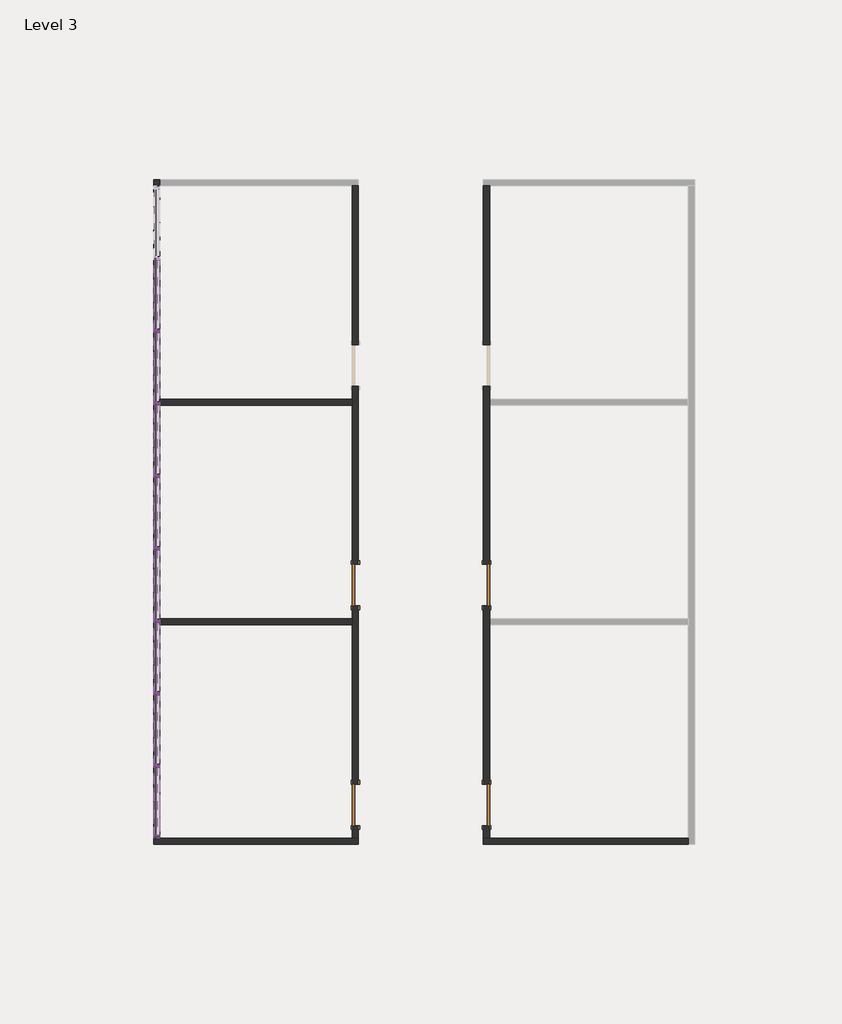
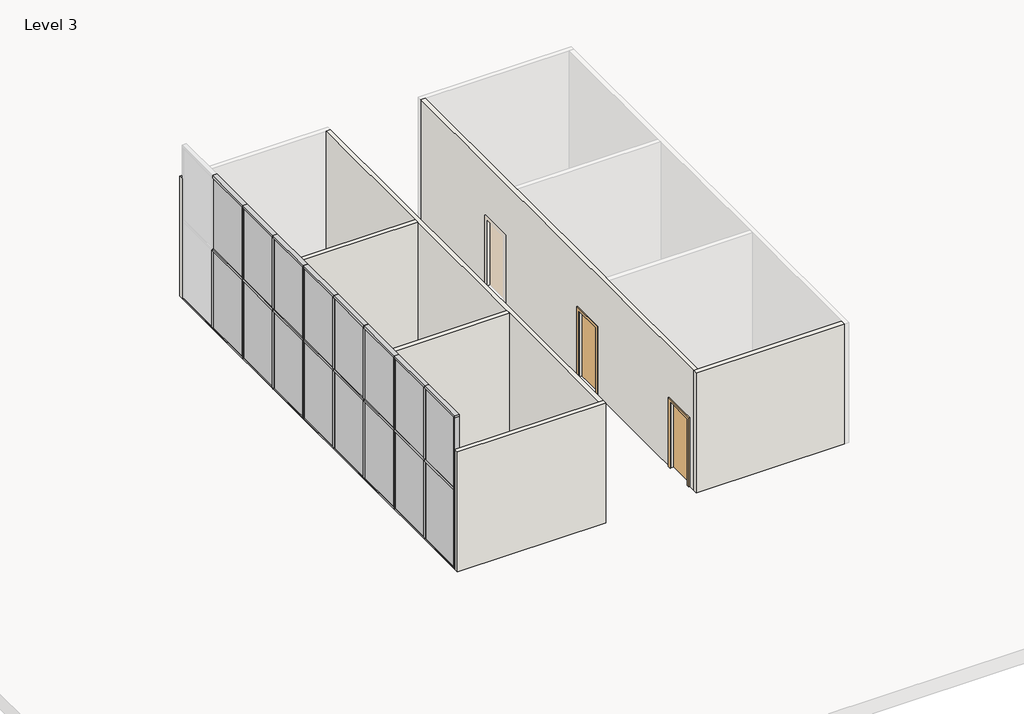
# One storey, part 1 of 2: 42 members, 16 plates, 7 walls, 4 doors.
"""IFC4 building model written with IfcOpenShell, lengths in millimetres."""

from ifc_helpers import new_model, si_unit, frame, origin, place, context, project, spatial, polyline, outline, extrude, faceted_brep, transform, mapped, element, save
from components import door_82111de5, door_92889684, member_fc09b6aa, member_9597caa3, member_b2bde9e6, member_131a91bd, member_8e4b14e5, member_6186cc23, member_73a57e35, system_panel_glazed_f771dc8d, system_panel_glazed_f1d9fa5b, system_panel_solid_9531ad7b, system_panel_solid_2d037642

model = new_model("IFC4")

# Units and contexts
model_context = context("Model", 3, world=origin())
ifc_project = project(units=[si_unit("LENGTHUNIT", "METRE", prefix="MILLI")], contexts=[model_context])

# Site, building, storey
site = spatial("IfcSite", under=ifc_project)
building = spatial("IfcBuilding", under=site)
storey = spatial("IfcBuildingStorey", under=building, Name="Level 3", Elevation=7315.2)

# Doors
placement = place(None, origin())
door_shape = door_82111de5(model_context)
element("IfcDoor", 1, ObjectType="Single-Flush : 34\" x 80\"", at=placement, inside=storey, context=model_context, shape_type="MappedRepresentation", body=[
    mapped(door_shape, transform((-51923.5856498, -16957.0103492, 7315.2), x_axis=(0.0, -1.0, 0.0), y_axis=(1.0, 0.0, 0.0), z_axis=(0.0, 0.0, 1.0))),
])
element("IfcDoor", 2, ObjectType="Single-Flush : 34\" x 80\"", at=placement, inside=storey, context=model_context, shape_type="MappedRepresentation", body=[
    mapped(door_shape, transform((-51923.5856498, -12385.0103492, 7315.2), x_axis=(0.0, -1.0, 0.0), y_axis=(1.0, 0.0, 0.0), z_axis=(0.0, 0.0, 1.0))),
])
door_2_shape = door_92889684(model_context)
element("IfcDoor", 3, ObjectType="Single-Flush : 34\" x 80\"", at=placement, inside=storey, context=model_context, shape_type="MappedRepresentation", body=[
    mapped(door_2_shape, transform((-49194.8999355, -16957.0103492, 7315.2), x_axis=(0.0, -1.0, 0.0), y_axis=(1.0, 0.0, 0.0), z_axis=(0.0, 0.0, 1.0))),
])
element("IfcDoor", 4, ObjectType="Single-Flush : 34\" x 80\"", at=placement, inside=storey, context=model_context, shape_type="MappedRepresentation", body=[
    mapped(door_2_shape, transform((-49194.8999355, -12385.0103492, 7315.2), x_axis=(0.0, -1.0, 0.0), y_axis=(1.0, 0.0, 0.0), z_axis=(0.0, 0.0, 1.0))),
])

# Members
member_shape = member_fc09b6aa(model_context)
element("IfcMember", 5, ObjectType="Rectangular Mullion : 2.5\" x 5\" rectangular", at=placement, inside=storey, context=model_context, shape_type="MappedRepresentation", body=[
    mapped(member_shape, transform((-56063.7856498, -14635.7325714, 9728.2), x_axis=(0.0, 0.0, 1.0), y_axis=(1.0, 0.0, 0.0), z_axis=(0.0, 1.0, 0.0))),
])
element("IfcMember", 6, ObjectType="Rectangular Mullion : 2.5\" x 5\" rectangular", at=placement, inside=storey, context=model_context, shape_type="MappedRepresentation", body=[
    mapped(member_shape, transform((-56063.7856498, -13125.8436825, 9728.2), x_axis=(0.0, 0.0, 1.0), y_axis=(1.0, 0.0, 0.0), z_axis=(0.0, 1.0, 0.0))),
])
element("IfcMember", 7, ObjectType="Rectangular Mullion : 2.5\" x 5\" rectangular", at=placement, inside=storey, context=model_context, shape_type="MappedRepresentation", body=[
    mapped(member_shape, transform((-56063.7856498, -11615.9547936, 9728.2), x_axis=(0.0, 0.0, 1.0), y_axis=(1.0, 0.0, 0.0), z_axis=(0.0, 1.0, 0.0))),
])
element("IfcMember", 8, ObjectType="Rectangular Mullion : 2.5\" x 5\" rectangular", at=placement, inside=storey, context=model_context, shape_type="MappedRepresentation", body=[
    mapped(member_shape, transform((-56063.7856498, -10106.0659048, 9728.2), x_axis=(0.0, 0.0, 1.0), y_axis=(1.0, 0.0, 0.0), z_axis=(0.0, 1.0, 0.0))),
])
element("IfcMember", 9, ObjectType="Rectangular Mullion : 2.5\" x 5\" rectangular", at=placement, inside=storey, context=model_context, shape_type="MappedRepresentation", body=[
    mapped(member_shape, transform((-56063.7856498, -8596.1770159, 9728.2), x_axis=(0.0, 0.0, 1.0), y_axis=(1.0, 0.0, 0.0), z_axis=(0.0, 1.0, 0.0))),
])
element("IfcMember", 10, ObjectType="Rectangular Mullion : 2.5\" x 5\" rectangular", at=placement, inside=storey, context=model_context, shape_type="MappedRepresentation", body=[
    mapped(member_shape, transform((-56063.7856498, -7086.288127, 9728.2), x_axis=(0.0, 0.0, 1.0), y_axis=(1.0, 0.0, 0.0), z_axis=(0.0, 1.0, 0.0))),
])
element("IfcMember", 11, ObjectType="Rectangular Mullion : 2.5\" x 5\" rectangular", at=placement, inside=storey, context=model_context, shape_type="MappedRepresentation", body=[
    mapped(member_shape, transform((-56063.7856498, -5576.3992381, 9728.2), x_axis=(0.0, 0.0, 1.0), y_axis=(1.0, 0.0, 0.0), z_axis=(0.0, 1.0, 0.0))),
])
member_2_shape = member_9597caa3(model_context)
element("IfcMember", 12, ObjectType="Rectangular Mullion : 2.5\" x 5\" rectangular", at=placement, inside=storey, context=model_context, shape_type="MappedRepresentation", body=[
    mapped(member_2_shape, transform((-56063.7856498, -16145.6214603, 7353.3), x_axis=(0.0, 1.0, 0.0), y_axis=(1.0, 0.0, 0.0), z_axis=(0.0, 0.0, -1.0))),
])
element("IfcMember", 13, ObjectType="Rectangular Mullion : 2.5\" x 5\" rectangular", at=placement, inside=storey, context=model_context, shape_type="MappedRepresentation", body=[
    mapped(member_2_shape, transform((-56063.7856498, -14635.7325714, 7353.3), x_axis=(0.0, 1.0, 0.0), y_axis=(1.0, 0.0, 0.0), z_axis=(0.0, 0.0, -1.0))),
])
element("IfcMember", 14, ObjectType="Rectangular Mullion : 2.5\" x 5\" rectangular", at=placement, inside=storey, context=model_context, shape_type="MappedRepresentation", body=[
    mapped(member_2_shape, transform((-56063.7856498, -13125.8436825, 7353.3), x_axis=(0.0, 1.0, 0.0), y_axis=(1.0, 0.0, 0.0), z_axis=(0.0, 0.0, -1.0))),
])
element("IfcMember", 15, ObjectType="Rectangular Mullion : 2.5\" x 5\" rectangular", at=placement, inside=storey, context=model_context, shape_type="MappedRepresentation", body=[
    mapped(member_2_shape, transform((-56063.7856498, -11615.9547936, 7353.3), x_axis=(0.0, 1.0, 0.0), y_axis=(1.0, 0.0, 0.0), z_axis=(0.0, 0.0, -1.0))),
])
element("IfcMember", 16, ObjectType="Rectangular Mullion : 2.5\" x 5\" rectangular", at=placement, inside=storey, context=model_context, shape_type="MappedRepresentation", body=[
    mapped(member_2_shape, transform((-56063.7856498, -10106.0659048, 7353.3), x_axis=(0.0, 1.0, 0.0), y_axis=(1.0, 0.0, 0.0), z_axis=(0.0, 0.0, -1.0))),
])
element("IfcMember", 17, ObjectType="Rectangular Mullion : 2.5\" x 5\" rectangular", at=placement, inside=storey, context=model_context, shape_type="MappedRepresentation", body=[
    mapped(member_2_shape, transform((-56063.7856498, -8596.1770159, 7353.3), x_axis=(0.0, 1.0, 0.0), y_axis=(1.0, 0.0, 0.0), z_axis=(0.0, 0.0, -1.0))),
])
element("IfcMember", 18, ObjectType="Rectangular Mullion : 2.5\" x 5\" rectangular", at=placement, inside=storey, context=model_context, shape_type="MappedRepresentation", body=[
    mapped(member_2_shape, transform((-56063.7856498, -7086.288127, 7353.3), x_axis=(0.0, 1.0, 0.0), y_axis=(1.0, 0.0, 0.0), z_axis=(0.0, 0.0, -1.0))),
])
element("IfcMember", 19, ObjectType="Rectangular Mullion : 2.5\" x 5\" rectangular", at=placement, inside=storey, context=model_context, shape_type="MappedRepresentation", body=[
    mapped(member_2_shape, transform((-56063.7856498, -5576.3992381, 7353.3), x_axis=(0.0, 1.0, 0.0), y_axis=(1.0, 0.0, 0.0), z_axis=(0.0, 0.0, -1.0))),
])
member_3_shape = member_b2bde9e6(model_context)
element("IfcMember", 20, ObjectType="Rectangular Mullion : 2.5\" x 5\" rectangular", at=placement, inside=storey, context=model_context, shape_type="MappedRepresentation", body=[
    mapped(member_3_shape, transform((-56063.7856498, -17655.5103492, 9728.2), x_axis=(0.0, -1.0, 0.0), y_axis=(1.0, 0.0, 0.0), z_axis=(0.0, 0.0, 1.0))),
])
member_4_shape = member_131a91bd(model_context)
element("IfcMember", 21, ObjectType="Rectangular Mullion : 2.5\" x 5\" rectangular", at=placement, inside=storey, context=model_context, shape_type="MappedRepresentation", body=[
    mapped(member_4_shape, transform((-56063.7856498, -16145.6214603, 11988.8), x_axis=(0.0, 0.0, 1.0), y_axis=(1.0, 0.0, 0.0), z_axis=(0.0, 1.0, 0.0))),
])
element("IfcMember", 22, ObjectType="Rectangular Mullion : 2.5\" x 5\" rectangular", at=placement, inside=storey, context=model_context, shape_type="MappedRepresentation", body=[
    mapped(member_4_shape, transform((-56063.7856498, -14635.7325714, 11988.8), x_axis=(0.0, 0.0, 1.0), y_axis=(1.0, 0.0, 0.0), z_axis=(0.0, 1.0, 0.0))),
])
element("IfcMember", 23, ObjectType="Rectangular Mullion : 2.5\" x 5\" rectangular", at=placement, inside=storey, context=model_context, shape_type="MappedRepresentation", body=[
    mapped(member_4_shape, transform((-56063.7856498, -13125.8436825, 11988.8), x_axis=(0.0, 0.0, 1.0), y_axis=(1.0, 0.0, 0.0), z_axis=(0.0, 1.0, 0.0))),
])
element("IfcMember", 24, ObjectType="Rectangular Mullion : 2.5\" x 5\" rectangular", at=placement, inside=storey, context=model_context, shape_type="MappedRepresentation", body=[
    mapped(member_4_shape, transform((-56063.7856498, -11615.9547936, 11988.8), x_axis=(0.0, 0.0, 1.0), y_axis=(1.0, 0.0, 0.0), z_axis=(0.0, 1.0, 0.0))),
])
element("IfcMember", 25, ObjectType="Rectangular Mullion : 2.5\" x 5\" rectangular", at=placement, inside=storey, context=model_context, shape_type="MappedRepresentation", body=[
    mapped(member_4_shape, transform((-56063.7856498, -10106.0659048, 11988.8), x_axis=(0.0, 0.0, 1.0), y_axis=(1.0, 0.0, 0.0), z_axis=(0.0, 1.0, 0.0))),
])
element("IfcMember", 26, ObjectType="Rectangular Mullion : 2.5\" x 5\" rectangular", at=placement, inside=storey, context=model_context, shape_type="MappedRepresentation", body=[
    mapped(member_4_shape, transform((-56063.7856498, -8596.1770159, 11988.8), x_axis=(0.0, 0.0, 1.0), y_axis=(1.0, 0.0, 0.0), z_axis=(0.0, 1.0, 0.0))),
])
element("IfcMember", 27, ObjectType="Rectangular Mullion : 2.5\" x 5\" rectangular", at=placement, inside=storey, context=model_context, shape_type="MappedRepresentation", body=[
    mapped(member_4_shape, transform((-56063.7856498, -7086.288127, 11988.8), x_axis=(0.0, 0.0, 1.0), y_axis=(1.0, 0.0, 0.0), z_axis=(0.0, 1.0, 0.0))),
])
element("IfcMember", 28, ObjectType="Rectangular Mullion : 2.5\" x 5\" rectangular", at=placement, inside=storey, context=model_context, shape_type="MappedRepresentation", body=[
    mapped(member_4_shape, transform((-56063.7856498, -5576.3992381, 11988.8), x_axis=(0.0, 0.0, 1.0), y_axis=(1.0, 0.0, 0.0), z_axis=(0.0, 1.0, 0.0))),
])
element("IfcMember", 29, ObjectType="Rectangular Mullion : 2.5\" x 5\" rectangular", at=placement, inside=storey, context=model_context, shape_type="MappedRepresentation", body=[
    mapped(member_4_shape, transform((-56063.7856498, -17655.5103492, 7289.8), x_axis=(0.0, 0.0, -1.0), y_axis=(1.0, 0.0, 0.0), z_axis=(0.0, -1.0, 0.0))),
])
element("IfcMember", 30, ObjectType="Rectangular Mullion : 2.5\" x 5\" rectangular", at=placement, inside=storey, context=model_context, shape_type="MappedRepresentation", body=[
    mapped(member_4_shape, transform((-56063.7856498, -16145.6214603, 7289.8), x_axis=(0.0, 0.0, -1.0), y_axis=(1.0, 0.0, 0.0), z_axis=(0.0, -1.0, 0.0))),
])
element("IfcMember", 31, ObjectType="Rectangular Mullion : 2.5\" x 5\" rectangular", at=placement, inside=storey, context=model_context, shape_type="MappedRepresentation", body=[
    mapped(member_4_shape, transform((-56063.7856498, -14635.7325714, 7289.8), x_axis=(0.0, 0.0, -1.0), y_axis=(1.0, 0.0, 0.0), z_axis=(0.0, -1.0, 0.0))),
])
element("IfcMember", 32, ObjectType="Rectangular Mullion : 2.5\" x 5\" rectangular", at=placement, inside=storey, context=model_context, shape_type="MappedRepresentation", body=[
    mapped(member_4_shape, transform((-56063.7856498, -13125.8436825, 7289.8), x_axis=(0.0, 0.0, -1.0), y_axis=(1.0, 0.0, 0.0), z_axis=(0.0, -1.0, 0.0))),
])
element("IfcMember", 33, ObjectType="Rectangular Mullion : 2.5\" x 5\" rectangular", at=placement, inside=storey, context=model_context, shape_type="MappedRepresentation", body=[
    mapped(member_4_shape, transform((-56063.7856498, -11615.9547936, 7289.8), x_axis=(0.0, 0.0, -1.0), y_axis=(1.0, 0.0, 0.0), z_axis=(0.0, -1.0, 0.0))),
])
element("IfcMember", 34, ObjectType="Rectangular Mullion : 2.5\" x 5\" rectangular", at=placement, inside=storey, context=model_context, shape_type="MappedRepresentation", body=[
    mapped(member_4_shape, transform((-56063.7856498, -10106.0659048, 7289.8), x_axis=(0.0, 0.0, -1.0), y_axis=(1.0, 0.0, 0.0), z_axis=(0.0, -1.0, 0.0))),
])
element("IfcMember", 35, ObjectType="Rectangular Mullion : 2.5\" x 5\" rectangular", at=placement, inside=storey, context=model_context, shape_type="MappedRepresentation", body=[
    mapped(member_4_shape, transform((-56063.7856498, -8596.1770159, 7289.8), x_axis=(0.0, 0.0, -1.0), y_axis=(1.0, 0.0, 0.0), z_axis=(0.0, -1.0, 0.0))),
])
element("IfcMember", 36, ObjectType="Rectangular Mullion : 2.5\" x 5\" rectangular", at=placement, inside=storey, context=model_context, shape_type="MappedRepresentation", body=[
    mapped(member_4_shape, transform((-56063.7856498, -7086.288127, 7289.8), x_axis=(0.0, 0.0, -1.0), y_axis=(1.0, 0.0, 0.0), z_axis=(0.0, -1.0, 0.0))),
])
element("IfcMember", 37, ObjectType="Rectangular Mullion : 2.5\" x 5\" rectangular", at=placement, inside=storey, context=model_context, shape_type="MappedRepresentation", body=[
    mapped(member_4_shape, transform((-56063.7856498, -5576.3992381, 7289.8), x_axis=(0.0, 0.0, -1.0), y_axis=(1.0, 0.0, 0.0), z_axis=(0.0, -1.0, 0.0))),
])
member_5_shape = member_8e4b14e5(model_context)
element("IfcMember", 38, ObjectType="Rectangular Mullion : 2.5\" x 5\" rectangular", at=placement, inside=storey, context=model_context, shape_type="MappedRepresentation", body=[
    mapped(member_5_shape, transform((-56063.7856498, -16145.6214603, 9728.2), x_axis=(0.0, 0.0, 1.0), y_axis=(1.0, 0.0, 0.0), z_axis=(0.0, 1.0, 0.0))),
])
member_6_shape = member_6186cc23(model_context)
element("IfcMember", 39, ObjectType="Rectangular Mullion : 2.5\" x 5\" rectangular", at=placement, inside=storey, context=model_context, shape_type="MappedRepresentation", body=[
    mapped(member_6_shape, transform((-56063.7856498, -16145.6214603, 9759.95), x_axis=(0.0, 1.0, 0.0), y_axis=(1.0, 0.0, 0.0), z_axis=(0.0, 0.0, -1.0))),
])
element("IfcMember", 40, ObjectType="Rectangular Mullion : 2.5\" x 5\" rectangular", at=placement, inside=storey, context=model_context, shape_type="MappedRepresentation", body=[
    mapped(member_6_shape, transform((-56063.7856498, -14635.7325714, 9759.95), x_axis=(0.0, 1.0, 0.0), y_axis=(1.0, 0.0, 0.0), z_axis=(0.0, 0.0, -1.0))),
])
element("IfcMember", 41, ObjectType="Rectangular Mullion : 2.5\" x 5\" rectangular", at=placement, inside=storey, context=model_context, shape_type="MappedRepresentation", body=[
    mapped(member_6_shape, transform((-56063.7856498, -13125.8436825, 9759.95), x_axis=(0.0, 1.0, 0.0), y_axis=(1.0, 0.0, 0.0), z_axis=(0.0, 0.0, -1.0))),
])
element("IfcMember", 42, ObjectType="Rectangular Mullion : 2.5\" x 5\" rectangular", at=placement, inside=storey, context=model_context, shape_type="MappedRepresentation", body=[
    mapped(member_6_shape, transform((-56063.7856498, -11615.9547936, 9759.95), x_axis=(0.0, 1.0, 0.0), y_axis=(1.0, 0.0, 0.0), z_axis=(0.0, 0.0, -1.0))),
])
element("IfcMember", 43, ObjectType="Rectangular Mullion : 2.5\" x 5\" rectangular", at=placement, inside=storey, context=model_context, shape_type="MappedRepresentation", body=[
    mapped(member_6_shape, transform((-56063.7856498, -10106.0659048, 9759.95), x_axis=(0.0, 1.0, 0.0), y_axis=(1.0, 0.0, 0.0), z_axis=(0.0, 0.0, -1.0))),
])
element("IfcMember", 44, ObjectType="Rectangular Mullion : 2.5\" x 5\" rectangular", at=placement, inside=storey, context=model_context, shape_type="MappedRepresentation", body=[
    mapped(member_6_shape, transform((-56063.7856498, -8596.1770159, 9759.95), x_axis=(0.0, 1.0, 0.0), y_axis=(1.0, 0.0, 0.0), z_axis=(0.0, 0.0, -1.0))),
])
element("IfcMember", 45, ObjectType="Rectangular Mullion : 2.5\" x 5\" rectangular", at=placement, inside=storey, context=model_context, shape_type="MappedRepresentation", body=[
    mapped(member_6_shape, transform((-56063.7856498, -7086.288127, 9759.95), x_axis=(0.0, 1.0, 0.0), y_axis=(1.0, 0.0, 0.0), z_axis=(0.0, 0.0, -1.0))),
])
member_7_shape = member_73a57e35(model_context)
element("IfcMember", 46, ObjectType="Rectangular Mullion : 2.5\" x 5\" rectangular", at=placement, inside=storey, context=model_context, shape_type="MappedRepresentation", body=[
    mapped(member_7_shape, transform((-56063.7856498, -17655.5103492, 11925.3), x_axis=(0.0, -1.0, 0.0), y_axis=(1.0, 0.0, 0.0), z_axis=(0.0, 0.0, 1.0))),
])

# Plates
system_panel_glazed_shape = system_panel_glazed_f771dc8d(model_context)
element("IfcPlate", 47, ObjectType="System Panel : Glazed", at=placement, inside=storey, context=model_context, shape_type="MappedRepresentation", body=[
    mapped(system_panel_glazed_shape, transform((-56063.7856498, -16884.6909048, 7353.3), x_axis=(0.0, 1.0, 0.0), y_axis=(-1.0, 0.0, 0.0), z_axis=(0.0, 0.0, 1.0))),
])
system_panel_glazed_2_shape = system_panel_glazed_f1d9fa5b(model_context)
element("IfcPlate", 48, ObjectType="System Panel : Glazed", at=placement, inside=storey, context=model_context, shape_type="MappedRepresentation", body=[
    mapped(system_panel_glazed_2_shape, transform((-56063.7856498, -15390.6770159, 7353.3), x_axis=(0.0, 1.0, 0.0), y_axis=(-1.0, 0.0, 0.0), z_axis=(0.0, 0.0, 1.0))),
])
element("IfcPlate", 49, ObjectType="System Panel : Glazed", at=placement, inside=storey, context=model_context, shape_type="MappedRepresentation", body=[
    mapped(system_panel_glazed_2_shape, transform((-56063.7856498, -13880.788127, 7353.3), x_axis=(0.0, 1.0, 0.0), y_axis=(-1.0, 0.0, 0.0), z_axis=(0.0, 0.0, 1.0))),
])
element("IfcPlate", 50, ObjectType="System Panel : Glazed", at=placement, inside=storey, context=model_context, shape_type="MappedRepresentation", body=[
    mapped(system_panel_glazed_2_shape, transform((-56063.7856498, -12370.8992381, 7353.3), x_axis=(0.0, 1.0, 0.0), y_axis=(-1.0, 0.0, 0.0), z_axis=(0.0, 0.0, 1.0))),
])
element("IfcPlate", 51, ObjectType="System Panel : Glazed", at=placement, inside=storey, context=model_context, shape_type="MappedRepresentation", body=[
    mapped(system_panel_glazed_2_shape, transform((-56063.7856498, -10861.0103492, 7353.3), x_axis=(0.0, 1.0, 0.0), y_axis=(-1.0, 0.0, 0.0), z_axis=(0.0, 0.0, 1.0))),
])
element("IfcPlate", 52, ObjectType="System Panel : Glazed", at=placement, inside=storey, context=model_context, shape_type="MappedRepresentation", body=[
    mapped(system_panel_glazed_2_shape, transform((-56063.7856498, -9351.1214603, 7353.3), x_axis=(0.0, 1.0, 0.0), y_axis=(-1.0, 0.0, 0.0), z_axis=(0.0, 0.0, 1.0))),
])
element("IfcPlate", 53, ObjectType="System Panel : Glazed", at=placement, inside=storey, context=model_context, shape_type="MappedRepresentation", body=[
    mapped(system_panel_glazed_2_shape, transform((-56063.7856498, -7841.2325714, 7353.3), x_axis=(0.0, 1.0, 0.0), y_axis=(-1.0, 0.0, 0.0), z_axis=(0.0, 0.0, 1.0))),
])
element("IfcPlate", 54, ObjectType="System Panel : Glazed", at=placement, inside=storey, context=model_context, shape_type="MappedRepresentation", body=[
    mapped(system_panel_glazed_2_shape, transform((-56063.7856498, -6331.3436825, 7353.3), x_axis=(0.0, 1.0, 0.0), y_axis=(-1.0, 0.0, 0.0), z_axis=(0.0, 0.0, 1.0))),
])
system_panel_solid_shape = system_panel_solid_9531ad7b(model_context)
element("IfcPlate", 55, ObjectType="System Panel : Solid", at=placement, inside=storey, context=model_context, shape_type="MappedRepresentation", body=[
    mapped(system_panel_solid_shape, transform((-56063.7856498, -16884.6909048, 9759.95), x_axis=(0.0, 1.0, 0.0), y_axis=(-1.0, 0.0, 0.0), z_axis=(0.0, 0.0, 1.0))),
])
system_panel_solid_2_shape = system_panel_solid_2d037642(model_context)
element("IfcPlate", 56, ObjectType="System Panel : Solid", at=placement, inside=storey, context=model_context, shape_type="MappedRepresentation", body=[
    mapped(system_panel_solid_2_shape, transform((-56063.7856498, -15390.6770159, 9759.95), x_axis=(0.0, 1.0, 0.0), y_axis=(-1.0, 0.0, 0.0), z_axis=(0.0, 0.0, 1.0))),
])
element("IfcPlate", 57, ObjectType="System Panel : Solid", at=placement, inside=storey, context=model_context, shape_type="MappedRepresentation", body=[
    mapped(system_panel_solid_2_shape, transform((-56063.7856498, -13880.788127, 9759.95), x_axis=(0.0, 1.0, 0.0), y_axis=(-1.0, 0.0, 0.0), z_axis=(0.0, 0.0, 1.0))),
])
element("IfcPlate", 58, ObjectType="System Panel : Solid", at=placement, inside=storey, context=model_context, shape_type="MappedRepresentation", body=[
    mapped(system_panel_solid_2_shape, transform((-56063.7856498, -12370.8992381, 9759.95), x_axis=(0.0, 1.0, 0.0), y_axis=(-1.0, 0.0, 0.0), z_axis=(0.0, 0.0, 1.0))),
])
element("IfcPlate", 59, ObjectType="System Panel : Solid", at=placement, inside=storey, context=model_context, shape_type="MappedRepresentation", body=[
    mapped(system_panel_solid_2_shape, transform((-56063.7856498, -10861.0103492, 9759.95), x_axis=(0.0, 1.0, 0.0), y_axis=(-1.0, 0.0, 0.0), z_axis=(0.0, 0.0, 1.0))),
])
element("IfcPlate", 60, ObjectType="System Panel : Solid", at=placement, inside=storey, context=model_context, shape_type="MappedRepresentation", body=[
    mapped(system_panel_solid_2_shape, transform((-56063.7856498, -9351.1214603, 9759.95), x_axis=(0.0, 1.0, 0.0), y_axis=(-1.0, 0.0, 0.0), z_axis=(0.0, 0.0, 1.0))),
])
element("IfcPlate", 61, ObjectType="System Panel : Solid", at=placement, inside=storey, context=model_context, shape_type="MappedRepresentation", body=[
    mapped(system_panel_solid_2_shape, transform((-56063.7856498, -7841.2325714, 9759.95), x_axis=(0.0, 1.0, 0.0), y_axis=(-1.0, 0.0, 0.0), z_axis=(0.0, 0.0, 1.0))),
])
element("IfcPlate", 62, ObjectType="System Panel : Solid", at=placement, inside=storey, context=model_context, shape_type="MappedRepresentation", body=[
    mapped(system_panel_solid_2_shape, transform((-56063.7856498, -6331.3436825, 9759.95), x_axis=(0.0, 1.0, 0.0), y_axis=(-1.0, 0.0, 0.0), z_axis=(0.0, 0.0, 1.0))),
])

# Walls
element("IfcWall", 63, ObjectType="Interior - Generic - 5\"", at=placement, inside=storey, context=model_context, shape_type="Brep", body=[
    faceted_brep([(-56127.2856498, -17782.5103492, 7315.2), (-51860.0856498, -17782.5103492, 7315.2), (-51860.0856498, -17782.5103492, 10972.8), (-56127.2856498, -17782.5103492, 10972.8), (-56127.2856498, -17655.5103492, 7315.2), (-56127.2856498, -17655.5103492, 10972.8), (-51987.0856498, -17655.5103492, 10972.8), (-51860.0856498, -17655.5103492, 10972.8), (-51860.0856498, -17655.5103492, 7315.2), (-51987.0856498, -17655.5103492, 7315.2)], [[[0, 1, 2, 3]], [[4, 5, 6, 7, 8, 9]], [[1, 0, 4, 9, 8]], [[3, 2, 7, 6, 5]], [[0, 3, 5, 4]], [[2, 1, 8, 7]]]),
])
element("IfcWall", 64, ObjectType="Interior - Generic - 5\"", at=placement, inside=storey, context=model_context, shape_type="SweptSolid", body=[
    extrude(outline(polyline([(-56127.2856498, -3939.5103492), (-56000.2856498, -3939.5103492), (-56000.2856498, -4066.5103492), (-56127.2856498, -4066.5103492), (-56127.2856498, -3939.5103492)])), frame((0.0, 0.0, 7315.2), z_axis=(0.0, 0.0, 1.0), x_axis=(1.0, 0.0, 0.0)), (0.0, 0.0, 1.0), 3657.6),
])
element("IfcWall", 65, ObjectType="Interior - Generic - 5\"", at=placement, inside=storey, context=model_context, shape_type="Brep", body=[
    faceted_brep([(-49131.3999355, -11953.2103492, 7315.2), (-49131.3999355, -8638.5103492, 7315.2), (-49131.3999355, -8511.5103492, 7315.2), (-49131.3999355, -8244.8103492, 7315.2), (-49131.3999355, -8244.8103492, 9347.2), (-49131.3999355, -7381.2103492, 9347.2), (-49131.3999355, -7381.2103492, 7315.2), (-49131.3999355, -4066.5103492, 7315.2), (-49131.3999355, -4066.5103492, 10972.8), (-49131.3999355, -8511.5103492, 10972.8), (-49131.3999355, -8638.5103492, 10972.8), (-49131.3999355, -13083.5103492, 10972.8), (-49131.3999355, -13210.5103492, 10972.8), (-49131.3999355, -17655.5103492, 10972.8), (-49131.3999355, -17655.5103492, 7315.2), (-49131.3999355, -17388.8103492, 7315.2), (-49131.3999355, -17388.8103492, 9347.2), (-49131.3999355, -16525.2103492, 9347.2), (-49131.3999355, -16525.2103492, 7315.2), (-49131.3999355, -13210.5103492, 7315.2), (-49131.3999355, -13083.5103492, 7315.2), (-49131.3999355, -12816.8103492, 7315.2), (-49131.3999355, -12816.8103492, 9347.2), (-49131.3999355, -11953.2103492, 9347.2), (-49258.3999355, -8244.8103492, 9347.2), (-49258.3999355, -8244.8103492, 7315.2), (-49258.3999355, -11953.2103492, 7315.2), (-49258.3999355, -11953.2103492, 9347.2), (-49258.3999355, -12816.8103492, 9347.2), (-49258.3999355, -12816.8103492, 7315.2), (-49258.3999355, -16525.2103492, 7315.2), (-49258.3999355, -16525.2103492, 9347.2), (-49258.3999355, -17388.8103492, 9347.2), (-49258.3999355, -17388.8103492, 7315.2), (-49258.3999355, -17655.5103492, 7315.2), (-49258.3999355, -17655.5103492, 10972.8), (-49258.3999355, -4066.5103492, 10972.8), (-49258.3999355, -4066.5103492, 7315.2), (-49258.3999355, -7381.2103492, 7315.2), (-49258.3999355, -7381.2103492, 9347.2)], [[[0, 1, 2, 3, 4, 5, 6, 7, 8, 9, 10, 11, 12, 13, 14, 15, 16, 17, 18, 19, 20, 21, 22, 23]], [[24, 25, 26, 27, 28, 29, 30, 31, 32, 33, 34, 35, 36, 37, 38, 39]], [[34, 33, 15, 14]], [[30, 29, 21, 20, 19, 18]], [[38, 37, 7, 6]], [[26, 25, 3, 2, 1, 0]], [[13, 12, 11, 10, 9, 8, 36, 35]], [[8, 7, 37, 36]], [[14, 13, 35, 34]], [[16, 15, 33, 32]], [[17, 16, 32, 31]], [[18, 17, 31, 30]], [[22, 21, 29, 28]], [[23, 22, 28, 27]], [[0, 23, 27, 26]], [[4, 3, 25, 24]], [[5, 4, 24, 39]], [[6, 5, 39, 38]]]),
])
element("IfcWall", 66, ObjectType="Interior - Generic - 5\"", at=placement, inside=storey, context=model_context, shape_type="Brep", body=[
    faceted_brep([(-51987.0856498, -8244.8103492, 9347.2), (-51987.0856498, -8244.8103492, 7315.2), (-51987.0856498, -8511.5103492, 7315.2), (-51987.0856498, -8638.5103492, 7315.2), (-51987.0856498, -11953.2103492, 7315.2), (-51987.0856498, -11953.2103492, 9347.2), (-51987.0856498, -12816.8103492, 9347.2), (-51987.0856498, -12816.8103492, 7315.2), (-51987.0856498, -13083.5103492, 7315.2), (-51987.0856498, -13210.5103492, 7315.2), (-51987.0856498, -16525.2103492, 7315.2), (-51987.0856498, -16525.2103492, 9347.2), (-51987.0856498, -17388.8103492, 9347.2), (-51987.0856498, -17388.8103492, 7315.2), (-51987.0856498, -17655.5103492, 7315.2), (-51987.0856498, -17655.5103492, 10972.8), (-51987.0856498, -13210.5103492, 10972.8), (-51987.0856498, -13083.5103492, 10972.8), (-51987.0856498, -8638.5103492, 10972.8), (-51987.0856498, -8511.5103492, 10972.8), (-51987.0856498, -4066.5103492, 10972.8), (-51987.0856498, -4066.5103492, 7315.2), (-51987.0856498, -7381.2103492, 7315.2), (-51987.0856498, -7381.2103492, 9347.2), (-51860.0856498, -11953.2103492, 7315.2), (-51860.0856498, -8244.8103492, 7315.2), (-51860.0856498, -8244.8103492, 9347.2), (-51860.0856498, -7381.2103492, 9347.2), (-51860.0856498, -7381.2103492, 7315.2), (-51860.0856498, -4066.5103492, 7315.2), (-51860.0856498, -4066.5103492, 10972.8), (-51860.0856498, -17655.5103492, 10972.8), (-51860.0856498, -17655.5103492, 7315.2), (-51860.0856498, -17388.8103492, 7315.2), (-51860.0856498, -17388.8103492, 9347.2), (-51860.0856498, -16525.2103492, 9347.2), (-51860.0856498, -16525.2103492, 7315.2), (-51860.0856498, -12816.8103492, 7315.2), (-51860.0856498, -12816.8103492, 9347.2), (-51860.0856498, -11953.2103492, 9347.2)], [[[0, 1, 2, 3, 4, 5, 6, 7, 8, 9, 10, 11, 12, 13, 14, 15, 16, 17, 18, 19, 20, 21, 22, 23]], [[24, 25, 26, 27, 28, 29, 30, 31, 32, 33, 34, 35, 36, 37, 38, 39]], [[14, 13, 33, 32]], [[10, 9, 8, 7, 37, 36]], [[22, 21, 29, 28]], [[4, 3, 2, 1, 25, 24]], [[20, 19, 18, 17, 16, 15, 31, 30]], [[21, 20, 30, 29]], [[15, 14, 32, 31]], [[34, 33, 13, 12]], [[35, 34, 12, 11]], [[36, 35, 11, 10]], [[38, 37, 7, 6]], [[39, 38, 6, 5]], [[24, 39, 5, 4]], [[26, 25, 1, 0]], [[27, 26, 0, 23]], [[28, 27, 23, 22]]]),
])
element("IfcWall", 67, ObjectType="Interior - Generic - 5\"", at=placement, inside=storey, context=model_context, shape_type="Brep", body=[
    faceted_brep([(-49258.3999355, -17782.5103492, 7315.2), (-44991.1999355, -17782.5103492, 7315.2), (-44991.1999355, -17782.5103492, 10972.8), (-49258.3999355, -17782.5103492, 10972.8), (-49258.3999355, -17655.5103492, 7315.2), (-49258.3999355, -17655.5103492, 10972.8), (-49131.3999355, -17655.5103492, 10972.8), (-44991.1999355, -17655.5103492, 10972.8), (-44991.1999355, -17655.5103492, 7315.2), (-49131.3999355, -17655.5103492, 7315.2)], [[[0, 1, 2, 3]], [[4, 5, 6, 7, 8, 9]], [[1, 0, 4, 9, 8]], [[3, 2, 7, 6, 5]], [[2, 1, 8, 7]], [[0, 3, 5, 4]]]),
])
element("IfcWall", 68, ObjectType="Interior - Generic - 5\"", at=placement, inside=storey, context=model_context, shape_type="SweptSolid", body=[
    extrude(outline(polyline([(-56000.2856498, -13083.5103492), (-51987.0856498, -13083.5103492), (-51987.0856498, -13210.5103492), (-56000.2856498, -13210.5103492), (-56000.2856498, -13083.5103492)])), frame((0.0, 0.0, 7315.2), z_axis=(0.0, 0.0, 1.0), x_axis=(1.0, 0.0, 0.0)), (0.0, 0.0, 1.0), 3657.6),
])
element("IfcWall", 69, ObjectType="Interior - Generic - 5\"", at=placement, inside=storey, context=model_context, shape_type="SweptSolid", body=[
    extrude(outline(polyline([(-56000.2856498, -8511.5103492), (-51987.0856498, -8511.5103492), (-51987.0856498, -8638.5103492), (-56000.2856498, -8638.5103492), (-56000.2856498, -8511.5103492)])), frame((0.0, 0.0, 7315.2), z_axis=(0.0, 0.0, 1.0), x_axis=(1.0, 0.0, 0.0)), (0.0, 0.0, 1.0), 3657.6),
])

save(model, "model.ifc")
